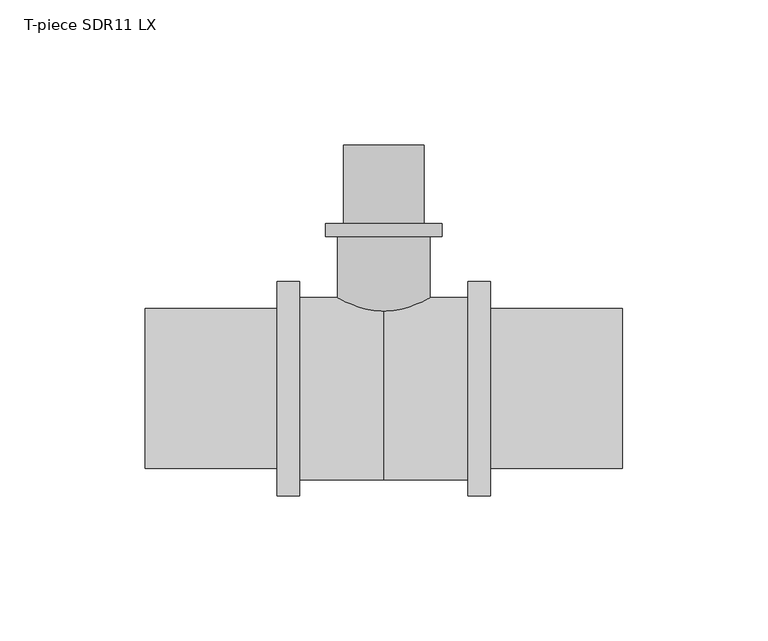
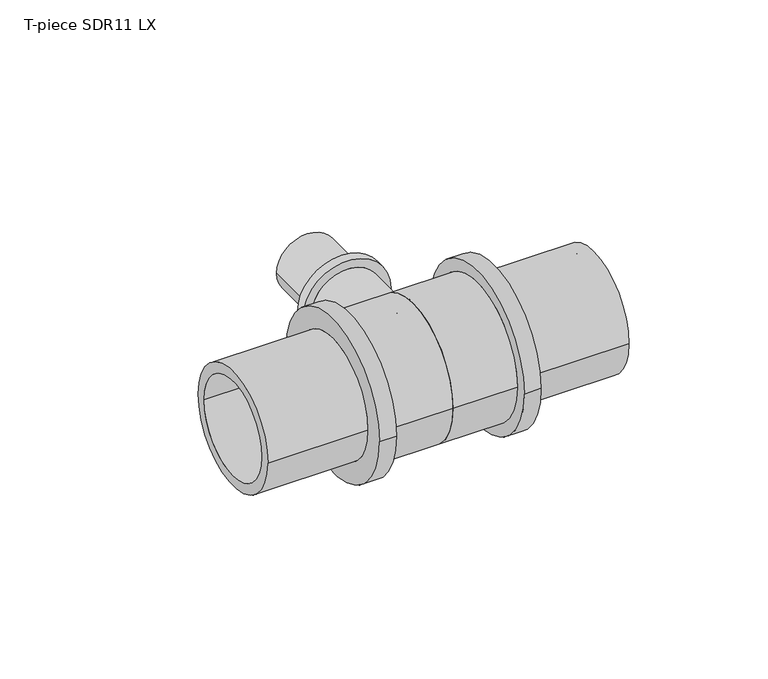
"""IFC4 building model written with IfcOpenShell, lengths in millimetres: pipe fitting geometry, T-piece SDR11 LX : T-piece LX SDR11 LX."""

import ifcopenshell
import ifcopenshell.guid

model = None  # the IFC model being written
_history = None  # IfcOwnerHistory: only IFC2X3 demands one
_inside = {}  # id of a spatial element -> (the spatial element, [elements in it])
_under = {}  # id of a project, library or spatial element -> (it, [spatial elements below it])
_declared = {}  # id of a project -> (the project, [libraries it declares])
_typed = {}  # id of a type object -> (the type object, [elements of that type])
_made_of = {}  # id of a material, layer set ... -> (it, [elements and type objects made of it])


def new_model(schema):
    """Start an empty IFC model of exactly this schema.

    Asked for "IFC4X3", IfcOpenShell would pick the latest addendum, in which some entities
    have other attributes; the version numbers below select the first issue.
    IFC2X3 requires an IfcOwnerHistory on every rooted entity: one is made here for all.
    """
    global model, _history
    if schema == "IFC4X3":
        model = ifcopenshell.file(schema_version=(4, 3, 0, 0))
    else:
        model = ifcopenshell.file(schema=schema)
    _inside.clear()
    _under.clear()
    _declared.clear()
    _typed.clear()
    _made_of.clear()
    _history = None
    if model.schema == "IFC2X3":
        org = make("IfcOrganization", Name="unknown")
        user = make(
            "IfcPersonAndOrganization",
            ThePerson=make("IfcPerson", FamilyName="unknown"),
            TheOrganization=org,
        )
        app = make(
            "IfcApplication",
            ApplicationDeveloper=org,
            Version="unknown",
            ApplicationFullName="unknown",
            ApplicationIdentifier="unknown",
        )
        _history = make(
            "IfcOwnerHistory",
            OwningUser=user,
            OwningApplication=app,
            ChangeAction="ADDED",
            CreationDate=0,
        )
    return model


def make(cls, **values):
    """One entity of the class cls with the attributes given. An attribute that is None is left unset."""
    return model.create_entity(
        cls, **{name: value for name, value in values.items() if value is not None}
    )


def rooted(cls, **values):
    """An entity with a GlobalId (a new one), such as an element, a storey or a relation."""
    return make(cls, GlobalId=ifcopenshell.guid.new(), OwnerHistory=_history, **values)


def si_unit(unit_type, name, prefix=None):
    """IfcSIUnit, for example si_unit("LENGTHUNIT", "METRE", prefix="MILLI")."""
    return make("IfcSIUnit", UnitType=unit_type, Prefix=prefix, Name=name)


def assignment(units):
    """IfcUnitAssignment: the units of a project."""
    return None if units is None else make("IfcUnitAssignment", Units=units)


def point(xyz):
    """IfcCartesianPoint."""
    return None if xyz is None else make("IfcCartesianPoint", Coordinates=xyz)


def direction(xyz):
    """IfcDirection."""
    return None if xyz is None else make("IfcDirection", DirectionRatios=xyz)


def frame(location, z_axis=None, x_axis=None):
    """IfcAxis2Placement3D, a coordinate frame: its origin and axes. An axis left out is left unset."""
    return make(
        "IfcAxis2Placement3D",
        Location=point(location),
        Axis=direction(z_axis),
        RefDirection=direction(x_axis),
    )


def origin():
    """The frame at (0, 0, 0) with its axes left unset."""
    return frame((0.0, 0.0, 0.0))


def place(relative_to, where):
    """IfcLocalPlacement: puts the frame where relative to a parent placement (None: the world)."""
    return make(
        "IfcLocalPlacement", PlacementRelTo=relative_to, RelativePlacement=where
    )


def context(
    kind, dimensions, precision=None, world=None, true_north=None, identifier=None
):
    """IfcGeometricRepresentationContext, for example the 3D "Model" context."""
    return make(
        "IfcGeometricRepresentationContext",
        ContextIdentifier=identifier,
        ContextType=kind,
        CoordinateSpaceDimension=dimensions,
        Precision=precision,
        WorldCoordinateSystem=world,
        TrueNorth=true_north,
    )


def project(units=None, contexts=None):
    """IfcProject with its units and contexts."""
    return rooted(
        "IfcProject",
        Name="project",
        RepresentationContexts=contexts,
        UnitsInContext=assignment(units),
    )


def spatial(cls, under=None, at=None, **own):
    """A site, building, storey or space (cls), placed at a placement, below another one or the project."""
    s = rooted(cls, ObjectPlacement=at, **own)
    if under is not None:
        _under.setdefault(under.id(), (under, []))[1].append(s)
    return s


def polyline(points):
    """IfcPolyline through the points."""
    return make("IfcPolyline", Points=[point(p) for p in points])


def circle_curve(where, radius):
    """IfcCircle in the frame where."""
    return make("IfcCircle", Position=where, Radius=radius)


def ellipse_curve(where, semi_axis1, semi_axis2):
    """IfcEllipse in the frame where."""
    return make(
        "IfcEllipse", Position=where, SemiAxis1=semi_axis1, SemiAxis2=semi_axis2
    )


def trimmed(basis, trim1, trim2, sense, master):
    """IfcTrimmedCurve: the piece of a basis curve between two trims."""
    return make(
        "IfcTrimmedCurve",
        BasisCurve=basis,
        Trim1=trim1,
        Trim2=trim2,
        SenseAgreement=sense,
        MasterRepresentation=master,
    )


def shape(context_of_items, identifier, shape_type, items):
    """IfcShapeRepresentation: the items that make up one representation, for example the "Body"."""
    return make(
        "IfcShapeRepresentation",
        ContextOfItems=context_of_items,
        RepresentationIdentifier=identifier,
        RepresentationType=shape_type,
        Items=items,
    )


def source(mapping_origin, context_of_items, identifier, shape_type, items):
    """IfcRepresentationMap: a shape defined once, which mapped items show again and again."""
    return make(
        "IfcRepresentationMap",
        MappingOrigin=mapping_origin,
        MappedRepresentation=shape(context_of_items, identifier, shape_type, items),
    )


def transform(
    local_origin,
    x_axis=None,
    y_axis=None,
    z_axis=None,
    scale=None,
    scale2=None,
    scale3=None,
    uniform=True,
):
    """IfcCartesianTransformationOperator3D, or its non-uniform kind. x_axis, y_axis, z_axis: its Axis1, 2, 3."""
    if uniform:
        return make(
            "IfcCartesianTransformationOperator3D",
            Axis1=direction(x_axis),
            Axis2=direction(y_axis),
            LocalOrigin=point(local_origin),
            Scale=scale,
            Axis3=direction(z_axis),
        )
    return make(
        "IfcCartesianTransformationOperator3DnonUniform",
        Axis1=direction(x_axis),
        Axis2=direction(y_axis),
        LocalOrigin=point(local_origin),
        Scale=scale,
        Axis3=direction(z_axis),
        Scale2=scale2,
        Scale3=scale3,
    )


def mapped(mapping_source, mapping_target):
    """IfcMappedItem: shows the shape of a source again, moved by a transform."""
    return make(
        "IfcMappedItem", MappingSource=mapping_source, MappingTarget=mapping_target
    )


def made_of(thing, what):
    """Note that an element or type object is made of a material, layer set ...; save() writes the relation."""
    if what is not None:
        _made_of.setdefault(what.id(), (what, []))[1].append(thing)
    return thing


def element(
    cls,
    number,
    at=None,
    inside=None,
    cuts=None,
    type_object=None,
    material=None,
    context=None,
    identifier="Body",
    shape_type=None,
    held_by="IfcProductDefinitionShape",
    body=None,
    shapes=None,
    **own,
):
    """One element of the class cls, such as IfcWall. Its Tag is "e" and its number.

    at: its placement. inside: the storey or other place that contains it. cuts: it is an
    opening in that element (IfcRelVoidsElement). A single representation is given by context,
    identifier, shape_type and body (its items); several are given by shapes. held_by: the class
    of the entity that holds the representations. save() writes the other relations.
    """
    e = rooted(cls, Tag="e%d" % number, ObjectPlacement=at, **own)
    if body is not None:
        shapes = [shape(context, identifier, shape_type, body)]
    if shapes is not None:
        e.Representation = make(held_by, Representations=shapes)
    if inside is not None:
        _inside.setdefault(inside.id(), (inside, []))[1].append(e)
    if cuts is not None:
        rooted(
            "IfcRelVoidsElement", RelatingBuildingElement=cuts, RelatedOpeningElement=e
        )
    if type_object is not None:
        _typed.setdefault(type_object.id(), (type_object, []))[1].append(e)
    return made_of(e, material)


def aggregate(whole, parts):
    """IfcRelAggregates: a whole, such as a stair, and the parts it consists of."""
    return rooted("IfcRelAggregates", RelatingObject=whole, RelatedObjects=parts)


def save(model, path):
    """Write the relations noted so far, then the file.

    IfcRelAggregates (storeys below a building ...), IfcRelContainedInSpatialStructure (elements
    in a storey), IfcRelDefinesByType, IfcRelAssociatesMaterial and IfcRelDeclares: one each for
    every whole, place, type object, material and project.
    """
    for whole, parts in _under.values():
        aggregate(whole, parts)
    for where, things in _inside.values():
        rooted(
            "IfcRelContainedInSpatialStructure",
            RelatedElements=things,
            RelatingStructure=where,
        )
    for kind, things in _typed.values():
        rooted("IfcRelDefinesByType", RelatedObjects=things, RelatingType=kind)
    for what, things in _made_of.values():
        rooted("IfcRelAssociatesMaterial", RelatedObjects=things, RelatingMaterial=what)
    for by, libraries in _declared.values():
        rooted("IfcRelDeclares", RelatingContext=by, RelatedDefinitions=libraries)
    model.write(path)


def plane_surface(at):
    """IfcPlane: the flat surface through the origin of the frame at, square to its z axis."""
    return make("IfcPlane", Position=at)


def cylinder_surface(at, radius):
    """IfcCylindricalSurface: all points at the distance radius from the z axis of the frame at."""
    return make("IfcCylindricalSurface", Position=at, Radius=radius)


def revolved_surface(curve, axis_point, axis_direction):
    """IfcSurfaceOfRevolution: the curve turned about the line through axis_point along axis_direction."""
    return make(
        "IfcSurfaceOfRevolution",
        SweptCurve=make("IfcArbitraryOpenProfileDef", ProfileType="CURVE", Curve=curve),
        AxisPosition=make("IfcAxis1Placement", Location=point(axis_point), Axis=direction(axis_direction)),
    )


def advanced_brep(points, edges, surfaces, faces):
    """IfcAdvancedBrep: a solid bounded by faces that lie on surfaces and meet in shared edges.

    An edge is (start, end): straight between two places in points (the first is 0);
    or (start, end, curve); or (start, end, curve, False) where it runs against its curve.
    A face is (place in surfaces, loops), or (place, loops, False) where it looks against
    its surface's normal. A loop lists edges by number (the first is 1), with a minus sign
    where the edge is run from its end to its start. The first loop is the outer one.
    """
    corners = [point(p) for p in points]
    vertices = [make("IfcVertexPoint", VertexGeometry=c) for c in corners]
    made = []
    for start, end, *more in edges:
        made.append(
            make(
                "IfcEdgeCurve",
                EdgeStart=vertices[start],
                EdgeEnd=vertices[end],
                EdgeGeometry=more[0] if more else make("IfcPolyline", Points=[corners[start], corners[end]]),
                SameSense=more[1] if len(more) > 1 else True,
            )
        )
    hull = []
    for where, loops, *sense in faces:
        bounds = []
        for j, loop in enumerate(loops):
            ring = [make("IfcOrientedEdge", EdgeElement=made[abs(k) - 1], Orientation=k > 0) for k in loop]
            bounds.append(
                make(
                    "IfcFaceOuterBound" if j == 0 else "IfcFaceBound",
                    Bound=make("IfcEdgeLoop", EdgeList=ring),
                    Orientation=True,
                )
            )
        hull.append(make("IfcAdvancedFace", Bounds=bounds, FaceSurface=surfaces[where], SameSense=sense[0] if sense else True))
    return make("IfcAdvancedBrep", Outer=make("IfcClosedShell", CfsFaces=hull))


def t_piece_sdr11_lx_a8b36c13(model_context):
    return source(origin(), model_context, "Body", "AdvancedBrep", [
        advanced_brep(
        [(16.0, 1.1229685, 0.0), (-16.0, 1.1229685, 0.0), (-16.0, 52.5, 0.0), (16.0, 52.5, 0.0), (11.2, 84.0, 0.0), (-11.2, 84.0, 0.0), (-11.2, 0.0, 0.0), (11.2, 0.0, 0.0), (13.95, 57.0, 0.0), (-13.95, 57.0, 0.0), (-13.95, 84.0, 0.0), (13.95, 84.0, 0.0), (20.0, 52.5, 0.0), (-20.0, 52.5, 0.0), (-20.0, 57.0, 0.0), (20.0, 57.0, 0.0)],
        [
            (0, 1, circle_curve(frame((0.0, 1.1229685, 0.0), z_axis=(0.0, 1.0, 0.0), x_axis=(-1.0, 0.0, 0.0)), 16.0)),
            (1, 2),
            (2, 3, circle_curve(frame((0.0, 52.5, 0.0), z_axis=(0.0, -1.0, 0.0), x_axis=(-1.0, 0.0, 0.0)), 16.0)),
            (3, 0),
            (4, 5, circle_curve(frame((0.0, 84.0, 0.0), z_axis=(0.0, 1.0, 0.0), x_axis=(-1.0, 0.0, 0.0)), 11.2)),
            (5, 6),
            (6, 7, circle_curve(frame((0.0, 0.0, 0.0), z_axis=(0.0, -1.0, 0.0), x_axis=(-1.0, 0.0, 0.0)), 11.2)),
            (7, 4),
            (8, 9, circle_curve(frame((0.0, 57.0, 0.0), z_axis=(0.0, 1.0, 0.0), x_axis=(-1.0, 0.0, 0.0)), 13.95)),
            (9, 10),
            (10, 11, circle_curve(frame((0.0, 84.0, 0.0), z_axis=(0.0, -1.0, 0.0), x_axis=(-1.0, 0.0, 0.0)), 13.95)),
            (11, 8),
            (12, 13, circle_curve(frame((0.0, 52.5, 0.0), z_axis=(0.0, 1.0, 0.0), x_axis=(-1.0, 0.0, 0.0)), 20.0)),
            (13, 14),
            (14, 15, circle_curve(frame((0.0, 57.0, 0.0), z_axis=(0.0, -1.0, 0.0), x_axis=(-1.0, 0.0, 0.0)), 20.0)),
            (15, 12),
            (12, 13, circle_curve(frame((0.0, 52.5, 0.0), z_axis=(0.0, -1.0, 0.0), x_axis=(1.0, 0.0, 0.0)), 20.0)),
            (2, 3, circle_curve(frame((0.0, 52.5, 0.0), z_axis=(0.0, 1.0, 0.0), x_axis=(1.0, 0.0, 0.0)), 16.0)),
            (1, 0, circle_curve(frame((0.0, 1.1229685, 0.0), z_axis=(0.0, 1.0, 0.0), x_axis=(1.0, 0.0, 0.0)), 16.0)),
            (5, 4, circle_curve(frame((0.0, 84.0, 0.0), z_axis=(0.0, 1.0, 0.0), x_axis=(1.0, 0.0, 0.0)), 11.2)),
            (7, 6, circle_curve(frame((0.0, 0.0, 0.0), z_axis=(0.0, -1.0, 0.0), x_axis=(1.0, 0.0, 0.0)), 11.2)),
            (10, 11, circle_curve(frame((0.0, 84.0, 0.0), z_axis=(0.0, 1.0, 0.0), x_axis=(1.0, 0.0, 0.0)), 13.95)),
            (9, 8, circle_curve(frame((0.0, 57.0, 0.0), z_axis=(0.0, 1.0, 0.0), x_axis=(1.0, 0.0, 0.0)), 13.95)),
            (14, 15, circle_curve(frame((0.0, 57.0, 0.0), z_axis=(0.0, 1.0, 0.0), x_axis=(1.0, 0.0, 0.0)), 20.0)),
            (6, 1, circle_curve(frame((-6.4462802, 31.1392381, 0.0), z_axis=(0.0, 0.0, -1.0), x_axis=(0.0, -1.0, 0.0)), 31.5)),
            (0, 7, circle_curve(frame((6.4462802, 31.1392381, 0.0), z_axis=(0.0, 0.0, -1.0), x_axis=(0.0, -1.0, 0.0)), 31.5)),
        ],
        [
            cylinder_surface(frame((0.0, 0.0, 0.0), z_axis=(0.0, -1.0, 0.0), x_axis=(-1.0, 0.0, 0.0)), 16.0),
            revolved_surface(polyline([(-11.2, 0.0, 0.0), (-11.2, 84.0, 0.0)]), (0.0, 0.0, 0.0), (0.0, -1.0, 0.0)),
            cylinder_surface(frame((0.0, 0.0, 0.0), z_axis=(0.0, -1.0, 0.0), x_axis=(-1.0, 0.0, 0.0)), 13.95),
            cylinder_surface(frame((0.0, 0.0, 0.0), z_axis=(0.0, -1.0, 0.0), x_axis=(-1.0, 0.0, 0.0)), 20.0),
            plane_surface(frame((0.0, 52.5, 0.0), z_axis=(0.0, -1.0, 0.0), x_axis=(1.0, 0.0, 0.0))),
            cylinder_surface(frame((0.0, 0.0, 0.0), z_axis=(0.0, -1.0, 0.0), x_axis=(1.0, 0.0, 0.0)), 16.0),
            revolved_surface(polyline([(11.2, 0.0, 0.0), (11.2, 84.0, 0.0)]), (0.0, 0.0, 0.0), (0.0, -1.0, 0.0)),
            plane_surface(frame((0.0, 84.0, 0.0), z_axis=(0.0, 1.0, 0.0), x_axis=(1.0, 0.0, 0.0))),
            cylinder_surface(frame((0.0, 0.0, 0.0), z_axis=(0.0, -1.0, 0.0), x_axis=(1.0, 0.0, 0.0)), 13.95),
            plane_surface(frame((0.0, 57.0, 0.0), z_axis=(0.0, 1.0, 0.0), x_axis=(1.0, 0.0, 0.0))),
            cylinder_surface(frame((0.0, 0.0, 0.0), z_axis=(0.0, -1.0, 0.0), x_axis=(1.0, 0.0, 0.0)), 20.0),
            revolved_surface(trimmed(ellipse_curve(frame((-6.4462802, 31.1392381, 0.0), z_axis=(0.0, 0.0, 1.0), x_axis=(0.0, -1.0, 0.0)), 31.5, 31.5), [point((-16.0, 1.1229685, 0.0))], [point((-11.2, 0.0, 0.0))], True, "CARTESIAN"), (0.0, 0.0, 0.0), (0.0, -1.0, 0.0)),
            revolved_surface(trimmed(ellipse_curve(frame((6.4462802, 31.1392381, 0.0), z_axis=(0.0, 0.0, -1.0), x_axis=(0.0, -1.0, 0.0)), 31.5, 31.5), [point((16.0, 1.1229685, 0.0))], [point((11.2, 0.0, 0.0))], True, "CARTESIAN"), (0.0, 0.0, 0.0), (0.0, -1.0, 0.0)),
        ],
        [
            (0, [[1, 2, 3, 4]]),
            (1, [[5, 6, 7, 8]]),
            (2, [[9, 10, 11, 12]]),
            (3, [[13, 14, 15, 16]]),
            (4, [[17, -13], [18, -3]]),
            (5, [[19, -4, -18, -2]]),
            (6, [[20, -8, 21, -6]]),
            (7, [[22, -11], [-20, -5]]),
            (8, [[23, -12, -22, -10]]),
            (9, [[24, -15], [-23, -9]]),
            (10, [[-17, -16, -24, -14]]),
            (11, [[-7, 25, -1, 26]]),
            (12, [[-21, -26, -19, -25]]),
        ],
    ),
        advanced_brep(
        [(29.1, 31.5, 0.0), (29.1, -31.5, 0.0), (0.0, -31.5, 0.0), (0.0, 31.5, 0.0), (0.0, 22.75, 0.0), (0.0, -22.75, 0.0), (82.3, -22.75, 0.0), (82.3, 22.75, 0.0), (82.3, 27.55, 0.0), (82.3, -27.55, 0.0), (36.8, -27.55, 0.0), (36.8, 27.55, 0.0), (36.8, 37.0, 0.0), (36.8, -37.0, 0.0), (29.1, -37.0, 0.0), (29.1, 37.0, 0.0)],
        [
            (0, 1, circle_curve(frame((29.1, 0.0, 0.0), z_axis=(-1.0, 0.0, 0.0), x_axis=(0.0, -1.0, 0.0)), 31.5)),
            (1, 2),
            (2, 3, circle_curve(frame((0.0, 0.0, 0.0), z_axis=(1.0, 0.0, 0.0), x_axis=(0.0, -1.0, 0.0)), 31.5)),
            (3, 0),
            (4, 5, circle_curve(frame((0.0, 0.0, 0.0), z_axis=(-1.0, 0.0, 0.0), x_axis=(0.0, -1.0, 0.0)), 22.75)),
            (5, 6),
            (6, 7, circle_curve(frame((82.3, 0.0, 0.0), z_axis=(1.0, 0.0, 0.0), x_axis=(0.0, -1.0, 0.0)), 22.75)),
            (7, 4),
            (8, 9, circle_curve(frame((82.3, 0.0, 0.0), z_axis=(-1.0, 0.0, 0.0), x_axis=(0.0, -1.0, 0.0)), 27.55)),
            (9, 10),
            (10, 11, circle_curve(frame((36.8, 0.0, 0.0), z_axis=(1.0, 0.0, 0.0), x_axis=(0.0, -1.0, 0.0)), 27.55)),
            (11, 8),
            (12, 13, circle_curve(frame((36.8, 0.0, 0.0), z_axis=(-1.0, 0.0, 0.0), x_axis=(0.0, -1.0, 0.0)), 37.0)),
            (13, 14),
            (14, 15, circle_curve(frame((29.1, 0.0, 0.0), z_axis=(1.0, 0.0, 0.0), x_axis=(0.0, -1.0, 0.0)), 37.0)),
            (15, 12),
            (14, 15, circle_curve(frame((29.1, 0.0, 0.0), z_axis=(-1.0, 0.0, 0.0), x_axis=(0.0, 1.0, 0.0)), 37.0)),
            (0, 1, circle_curve(frame((29.1, 0.0, 0.0), z_axis=(1.0, 0.0, 0.0), x_axis=(0.0, 1.0, 0.0)), 31.5)),
            (3, 2, circle_curve(frame((0.0, 0.0, 0.0), z_axis=(1.0, 0.0, 0.0), x_axis=(0.0, 1.0, 0.0)), 31.5)),
            (4, 5, circle_curve(frame((0.0, 0.0, 0.0), z_axis=(1.0, 0.0, 0.0), x_axis=(0.0, 1.0, 0.0)), 22.75)),
            (7, 6, circle_curve(frame((82.3, 0.0, 0.0), z_axis=(1.0, 0.0, 0.0), x_axis=(0.0, 1.0, 0.0)), 22.75)),
            (8, 9, circle_curve(frame((82.3, 0.0, 0.0), z_axis=(1.0, 0.0, 0.0), x_axis=(0.0, 1.0, 0.0)), 27.55)),
            (11, 10, circle_curve(frame((36.8, 0.0, 0.0), z_axis=(1.0, 0.0, 0.0), x_axis=(0.0, 1.0, 0.0)), 27.55)),
            (12, 13, circle_curve(frame((36.8, 0.0, 0.0), z_axis=(1.0, 0.0, 0.0), x_axis=(0.0, 1.0, 0.0)), 37.0)),
        ],
        [
            cylinder_surface(frame((0.0, 0.0, 0.0), z_axis=(1.0, 0.0, 0.0), x_axis=(0.0, -1.0, 0.0)), 31.5),
            revolved_surface(polyline([(82.3, -22.75, 0.0), (0.0, -22.75, 0.0)]), (0.0, 0.0, 0.0), (1.0, 0.0, 0.0)),
            cylinder_surface(frame((0.0, 0.0, 0.0), z_axis=(1.0, 0.0, 0.0), x_axis=(0.0, -1.0, 0.0)), 27.55),
            cylinder_surface(frame((0.0, 0.0, 0.0), z_axis=(1.0, 0.0, 0.0), x_axis=(0.0, -1.0, 0.0)), 37.0),
            plane_surface(frame((29.1, 0.0, 0.0), z_axis=(-1.0, 0.0, 0.0), x_axis=(0.0, 1.0, 0.0))),
            cylinder_surface(frame((0.0, 0.0, 0.0), z_axis=(1.0, 0.0, 0.0), x_axis=(0.0, 1.0, 0.0)), 31.5),
            plane_surface(frame((0.0, 0.0, 0.0), z_axis=(-1.0, 0.0, 0.0), x_axis=(0.0, 1.0, 0.0))),
            revolved_surface(polyline([(82.3, 22.75, 0.0), (0.0, 22.75, 0.0)]), (0.0, 0.0, 0.0), (1.0, 0.0, 0.0)),
            plane_surface(frame((82.3, 0.0, 0.0), z_axis=(1.0, 0.0, 0.0), x_axis=(0.0, 1.0, 0.0))),
            cylinder_surface(frame((0.0, 0.0, 0.0), z_axis=(1.0, 0.0, 0.0), x_axis=(0.0, 1.0, 0.0)), 27.55),
            plane_surface(frame((36.8, 0.0, 0.0), z_axis=(1.0, 0.0, 0.0), x_axis=(0.0, 1.0, 0.0))),
            cylinder_surface(frame((0.0, 0.0, 0.0), z_axis=(1.0, 0.0, 0.0), x_axis=(0.0, 1.0, 0.0)), 37.0),
        ],
        [
            (0, [[1, 2, 3, 4]]),
            (1, [[5, 6, 7, 8]]),
            (2, [[9, 10, 11, 12]]),
            (3, [[13, 14, 15, 16]]),
            (4, [[17, -15], [18, -1]]),
            (5, [[-18, -4, 19, -2]]),
            (6, [[-19, -3], [20, -5]]),
            (7, [[-20, -8, 21, -6]]),
            (8, [[22, -9], [-21, -7]]),
            (9, [[-22, -12, 23, -10]]),
            (10, [[24, -13], [-23, -11]]),
            (11, [[-24, -16, -17, -14]]),
        ],
    ),
        advanced_brep(
        [(0.0, 31.5, 0.0), (0.0, -31.5, 0.0), (-29.1, -31.5, 0.0), (-29.1, 31.5, 0.0), (-82.3, 22.75, 0.0), (-82.3, -22.75, 0.0), (0.0, -22.75, 0.0), (0.0, 22.75, 0.0), (-36.8, 27.55, 0.0), (-36.8, -27.55, 0.0), (-82.3, -27.55, 0.0), (-82.3, 27.55, 0.0), (-29.1, 37.0, 0.0), (-29.1, -37.0, 0.0), (-36.8, -37.0, 0.0), (-36.8, 37.0, 0.0)],
        [
            (0, 1, circle_curve(frame((0.0, 0.0, 0.0), z_axis=(-1.0, 0.0, 0.0), x_axis=(0.0, -1.0, 0.0)), 31.5)),
            (1, 2),
            (2, 3, circle_curve(frame((-29.1, 0.0, 0.0), z_axis=(1.0, 0.0, 0.0), x_axis=(0.0, -1.0, 0.0)), 31.5)),
            (3, 0),
            (4, 5, circle_curve(frame((-82.3, 0.0, 0.0), z_axis=(-1.0, 0.0, 0.0), x_axis=(0.0, -1.0, 0.0)), 22.75)),
            (5, 6),
            (6, 7, circle_curve(frame((0.0, 0.0, 0.0), z_axis=(1.0, 0.0, 0.0), x_axis=(0.0, -1.0, 0.0)), 22.75)),
            (7, 4),
            (8, 9, circle_curve(frame((-36.8, 0.0, 0.0), z_axis=(-1.0, 0.0, 0.0), x_axis=(0.0, -1.0, 0.0)), 27.55)),
            (9, 10),
            (10, 11, circle_curve(frame((-82.3, 0.0, 0.0), z_axis=(1.0, 0.0, 0.0), x_axis=(0.0, -1.0, 0.0)), 27.55)),
            (11, 8),
            (12, 13, circle_curve(frame((-29.1, 0.0, 0.0), z_axis=(-1.0, 0.0, 0.0), x_axis=(0.0, -1.0, 0.0)), 37.0)),
            (13, 14),
            (14, 15, circle_curve(frame((-36.8, 0.0, 0.0), z_axis=(1.0, 0.0, 0.0), x_axis=(0.0, -1.0, 0.0)), 37.0)),
            (15, 12),
            (12, 13, circle_curve(frame((-29.1, 0.0, 0.0), z_axis=(1.0, 0.0, 0.0), x_axis=(0.0, 1.0, 0.0)), 37.0)),
            (2, 3, circle_curve(frame((-29.1, 0.0, 0.0), z_axis=(-1.0, 0.0, 0.0), x_axis=(0.0, 1.0, 0.0)), 31.5)),
            (1, 0, circle_curve(frame((0.0, 0.0, 0.0), z_axis=(-1.0, 0.0, 0.0), x_axis=(0.0, 1.0, 0.0)), 31.5)),
            (6, 7, circle_curve(frame((0.0, 0.0, 0.0), z_axis=(-1.0, 0.0, 0.0), x_axis=(0.0, 1.0, 0.0)), 22.75)),
            (5, 4, circle_curve(frame((-82.3, 0.0, 0.0), z_axis=(-1.0, 0.0, 0.0), x_axis=(0.0, 1.0, 0.0)), 22.75)),
            (10, 11, circle_curve(frame((-82.3, 0.0, 0.0), z_axis=(-1.0, 0.0, 0.0), x_axis=(0.0, 1.0, 0.0)), 27.55)),
            (9, 8, circle_curve(frame((-36.8, 0.0, 0.0), z_axis=(-1.0, 0.0, 0.0), x_axis=(0.0, 1.0, 0.0)), 27.55)),
            (14, 15, circle_curve(frame((-36.8, 0.0, 0.0), z_axis=(-1.0, 0.0, 0.0), x_axis=(0.0, 1.0, 0.0)), 37.0)),
        ],
        [
            cylinder_surface(frame((0.0, 0.0, 0.0), z_axis=(1.0, 0.0, 0.0), x_axis=(0.0, -1.0, 0.0)), 31.5),
            revolved_surface(polyline([(0.0, -22.75, 0.0), (-82.3, -22.75, 0.0)]), (0.0, 0.0, 0.0), (1.0, 0.0, 0.0)),
            cylinder_surface(frame((0.0, 0.0, 0.0), z_axis=(1.0, 0.0, 0.0), x_axis=(0.0, -1.0, 0.0)), 27.55),
            cylinder_surface(frame((0.0, 0.0, 0.0), z_axis=(1.0, 0.0, 0.0), x_axis=(0.0, -1.0, 0.0)), 37.0),
            plane_surface(frame((-29.1, 0.0, 0.0), z_axis=(1.0, 0.0, 0.0), x_axis=(0.0, 1.0, 0.0))),
            cylinder_surface(frame((0.0, 0.0, 0.0), z_axis=(1.0, 0.0, 0.0), x_axis=(0.0, 1.0, 0.0)), 31.5),
            plane_surface(frame((0.0, 0.0, 0.0), z_axis=(1.0, 0.0, 0.0), x_axis=(0.0, 1.0, 0.0))),
            revolved_surface(polyline([(0.0, 22.75, 0.0), (-82.3, 22.75, 0.0)]), (0.0, 0.0, 0.0), (1.0, 0.0, 0.0)),
            plane_surface(frame((-82.3, 0.0, 0.0), z_axis=(-1.0, 0.0, 0.0), x_axis=(0.0, 1.0, 0.0))),
            cylinder_surface(frame((0.0, 0.0, 0.0), z_axis=(1.0, 0.0, 0.0), x_axis=(0.0, 1.0, 0.0)), 27.55),
            plane_surface(frame((-36.8, 0.0, 0.0), z_axis=(-1.0, 0.0, 0.0), x_axis=(0.0, 1.0, 0.0))),
            cylinder_surface(frame((0.0, 0.0, 0.0), z_axis=(1.0, 0.0, 0.0), x_axis=(0.0, 1.0, 0.0)), 37.0),
        ],
        [
            (0, [[1, 2, 3, 4]]),
            (1, [[5, 6, 7, 8]]),
            (2, [[9, 10, 11, 12]]),
            (3, [[13, 14, 15, 16]]),
            (4, [[17, -13], [18, -3]]),
            (5, [[19, -4, -18, -2]]),
            (6, [[-19, -1], [20, -7]]),
            (7, [[21, -8, -20, -6]]),
            (8, [[22, -11], [-21, -5]]),
            (9, [[23, -12, -22, -10]]),
            (10, [[24, -15], [-23, -9]]),
            (11, [[-17, -16, -24, -14]]),
        ],
    ),
    ])


if __name__ == "__main__":
    model = new_model("IFC4")
    model_context = context("Model", 3, world=origin())
    ifc_project = project(units=[si_unit("LENGTHUNIT", "METRE", prefix="MILLI")], contexts=[model_context])
    site = spatial("IfcSite", under=ifc_project)
    building = spatial("IfcBuilding", under=site)
    placement = place(None, origin())
    t_piece_sdr11_lx_shape = t_piece_sdr11_lx_a8b36c13(model_context)
    element("IfcPipeFitting", 1, ObjectType="T-piece SDR11 LX : T-piece LX SDR11 LX", at=placement, inside=building, context=model_context, shape_type="MappedRepresentation", body=[
        mapped(t_piece_sdr11_lx_shape, transform((0.0, 0.0, 0.0), x_axis=(1.0, 0.0, 0.0), y_axis=(0.0, 1.0, 0.0), z_axis=(0.0, 0.0, 1.0))),
    ])
    save(model, "model.ifc")
